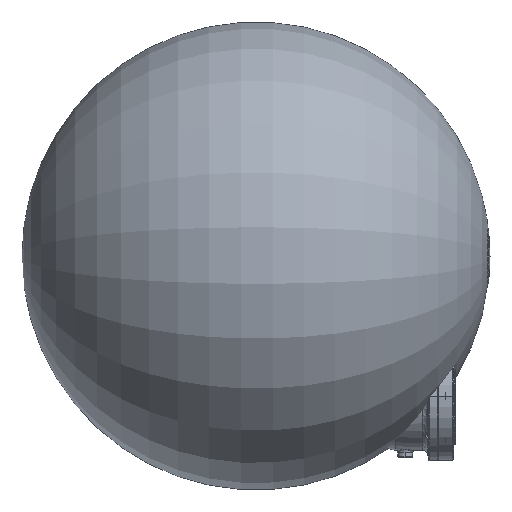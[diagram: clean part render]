
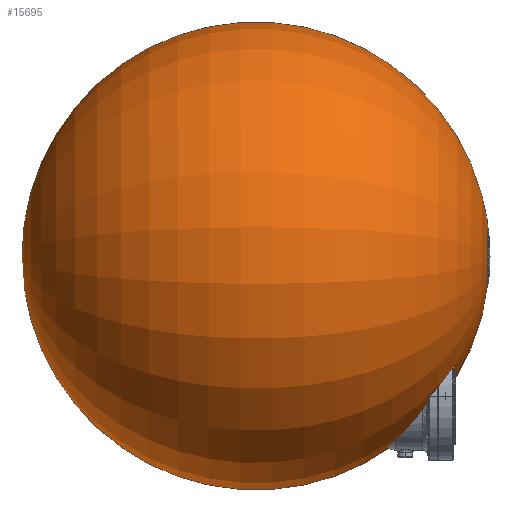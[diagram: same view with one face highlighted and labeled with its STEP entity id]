
A CAD part, top view. The second image highlights one B-rep face of the part: STEP entity #15695.
In plain terms, the highlighted toroidal (fillet/blend) face has major radius 0 mm and minor radius 459 mm.
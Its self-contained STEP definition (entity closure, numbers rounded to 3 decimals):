
#5744 = EDGE_CURVE ( 'NONE', #45341, #29414, #106731, .T. ) ;
#6294 = CARTESIAN_POINT ( 'NONE',  ( -292.51, 275.5, 0. ) ) ;
#11131 = CARTESIAN_POINT ( 'NONE',  ( 164.922, 306.363, 21.996 ) ) ;
#11984 = AXIS2_PLACEMENT_3D ( 'NONE', #6294, #67576, #16544 ) ;
#15695 = ADVANCED_FACE ( 'NONE', ( #72948 ), #76171, .T. ) ;
#16544 = DIRECTION ( 'NONE',  ( 0., -1., 0. ) ) ;
#19241 = CARTESIAN_POINT ( 'NONE',  ( 164.311, 313.045, 24.208 ) ) ;
#20429 = CARTESIAN_POINT ( 'NONE',  ( 164.702, 308.592, 23.437 ) ) ;
#21387 = CARTESIAN_POINT ( 'NONE',  ( 164.895, 306.363, 22.554 ) ) ;
#21871 = CARTESIAN_POINT ( 'NONE',  ( 164.895, 306.363, 22.554 ) ) ;
#22424 = CARTESIAN_POINT ( 'NONE',  ( 164.936, 306.363, 21.717 ) ) ;
#25775 = ORIENTED_EDGE ( 'NONE', *, *, #39579, .F. ) ;
#29363 = EDGE_CURVE ( 'NONE', #116609, #45341, #66950, .T. ) ;
#29414 = VERTEX_POINT ( 'NONE', #21871 ) ;
#39579 = EDGE_CURVE ( 'NONE', #29414, #121191, #120124, .T. ) ;
#40963 = CARTESIAN_POINT ( 'NONE',  ( 164.489, 310.819, 24.319 ) ) ;
#45341 = VERTEX_POINT ( 'NONE', #22424 ) ;
#46381 = CARTESIAN_POINT ( 'NONE',  ( 164.257, 313.045, 25.2 ) ) ;
#48093 = ORIENTED_EDGE ( 'NONE', *, *, #29363, .F. ) ;
#50139 = CARTESIAN_POINT ( 'NONE',  ( 164.746, 308.592, 22.548 ) ) ;
#51153 = CARTESIAN_POINT ( 'NONE',  ( 164.311, 313.045, 24.208 ) ) ;
#66950 = B_SPLINE_CURVE_WITH_KNOTS ( 'NONE', 3,
 ( #19241, #90887, #50139, #121848 ),
 .UNSPECIFIED., .F., .F.,
 ( 4, 4 ),
 ( 0., 1. ),
 .UNSPECIFIED. ) ;
#66979 = CARTESIAN_POINT ( 'NONE',  ( 164.311, 313.045, 24.208 ) ) ;
#67576 = DIRECTION ( 'NONE',  ( -1., 0., 0. ) ) ;
#72426 = CARTESIAN_POINT ( 'NONE',  ( 164.909, 306.363, 22.275 ) ) ;
#72948 = FACE_OUTER_BOUND ( 'NONE', #124804, .T. ) ;
#76171 = TOROIDAL_SURFACE ( 'NONE', #11984, 0., 459. ) ;
#77838 = B_SPLINE_CURVE_WITH_KNOTS ( 'NONE', 3,
 ( #46381, #107837, #128427, #66979 ),
 .UNSPECIFIED., .F., .F.,
 ( 4, 4 ),
 ( 0., 1. ),
 .UNSPECIFIED. ) ;
#80451 = EDGE_CURVE ( 'NONE', #121191, #116609, #77838, .T. ) ;
#82732 = CARTESIAN_POINT ( 'NONE',  ( 164.936, 306.363, 21.717 ) ) ;
#90887 = CARTESIAN_POINT ( 'NONE',  ( 164.538, 310.819, 23.378 ) ) ;
#92070 = CARTESIAN_POINT ( 'NONE',  ( 164.895, 306.363, 22.554 ) ) ;
#103558 = ORIENTED_EDGE ( 'NONE', *, *, #5744, .F. ) ;
#106731 = B_SPLINE_CURVE_WITH_KNOTS ( 'NONE', 3,
 ( #82732, #11131, #72426, #21387 ),
 .UNSPECIFIED., .F., .F.,
 ( 4, 4 ),
 ( 0., 1. ),
 .UNSPECIFIED. ) ;
#107837 = CARTESIAN_POINT ( 'NONE',  ( 164.275, 313.045, 24.869 ) ) ;
#108142 = CARTESIAN_POINT ( 'NONE',  ( 164.257, 313.045, 25.2 ) ) ;
#112731 = CARTESIAN_POINT ( 'NONE',  ( 164.257, 313.045, 25.2 ) ) ;
#115557 = ORIENTED_EDGE ( 'NONE', *, *, #80451, .F. ) ;
#116609 = VERTEX_POINT ( 'NONE', #51153 ) ;
#120124 = B_SPLINE_CURVE_WITH_KNOTS ( 'NONE', 3,
 ( #92070, #20429, #40963, #112731 ),
 .UNSPECIFIED., .F., .F.,
 ( 4, 4 ),
 ( 0., 1. ),
 .UNSPECIFIED. ) ;
#121191 = VERTEX_POINT ( 'NONE', #108142 ) ;
#121848 = CARTESIAN_POINT ( 'NONE',  ( 164.936, 306.363, 21.717 ) ) ;
#124804 = EDGE_LOOP ( 'NONE', ( #115557, #25775, #103558, #48093 ) ) ;
#128427 = CARTESIAN_POINT ( 'NONE',  ( 164.293, 313.045, 24.538 ) ) ;
